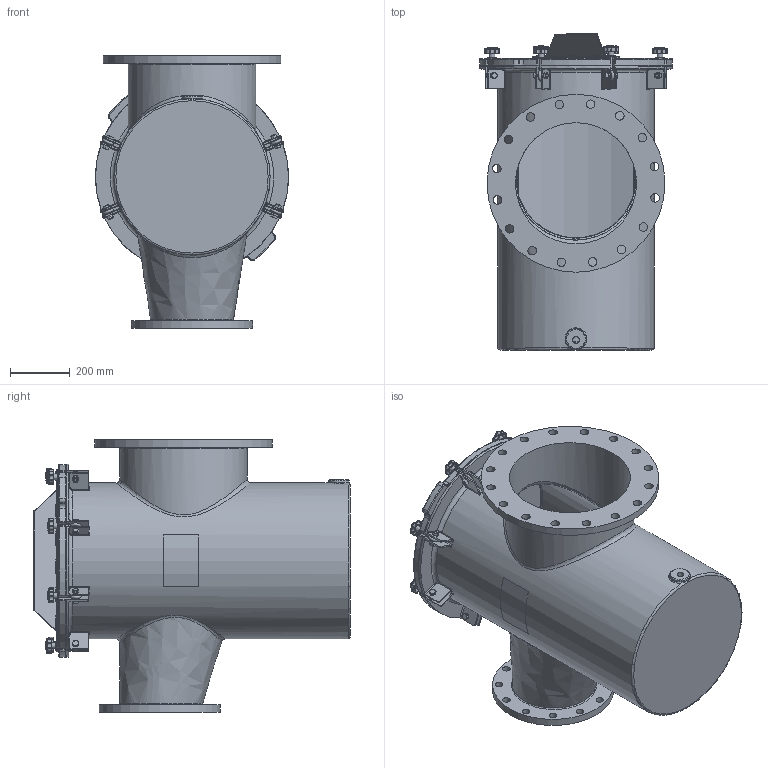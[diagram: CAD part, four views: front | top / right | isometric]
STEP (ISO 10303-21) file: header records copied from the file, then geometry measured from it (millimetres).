
FILE_DESCRIPTION(/* description */ ('STRAINER BODY'),/* implementation_level */ '2;1');
FILE_NAME(/* name */ 'Z:\Output\Strainers\11-14-2016\CAD\150NBFG60ER1.stp',/* time_stamp */ '2016-11-16T20:16:48+06:00',/* author */ ('20093558'),/* organization */ (''),/* preprocessor_version */ 'ST-DEVELOPER v16.1',/* originating_system */ 'Autodesk Inventor 2016',/* authorisation */ '');
FILE_SCHEMA (('AUTOMOTIVE_DESIGN { 1 0 10303 214 3 1 1 }'));
Length unit declared in the file: inch
Products named in the file (24): NBFG61EBODYR1; 150NBCVR22R2; 150NBGSK20R1; Perforated Basket 20in; Bride (Ring) 20in; Baffle 20in; Handle 20in; Bottom Strainer 20in; NBBSK16T316; BRACESTRCVR20_Welds; BRACE (BASE) FOR 20 BODY; BRACE (PROJ) FOR 20 BODY; Bumper; BRACESTRCVR20; Nut- 1_2  UNC; Bolt-1_2 x 1 1_2  UNC; EyeBolt; Washer; Knob M10; Securing Assembly For FG  with Brace; Securing Assembly For FG without Brace; Label for 20.625 inch (Right); Label for 20.625 inch (Left); Guardian FG Reducing H&L Strainer (Inch)
Assembly tree (39 placements, depth 3):
  Guardian FG Reducing H&L Strainer (Inch)
    NBFG61EBODYR1
    150NBCVR22R2
    150NBGSK20R1
    NBBSK16T316
      Perforated Basket 20in
      Bride (Ring) 20in
      Baffle 20in
      Handle 20in
      Bottom Strainer 20in
    BRACESTRCVR20
      BRACESTRCVR20_Welds
      BRACE (BASE) FOR 20 BODY
      BRACE (PROJ) FOR 20 BODY
      Bumper  x6
    Securing Assembly For FG  with Brace  x2
      Nut- 1_2  UNC
      Bolt-1_2 x 1 1_2  UNC
      EyeBolt
      Washer
      Knob M10
    Securing Assembly For FG without Brace  x6
      Nut- 1_2  UNC
      Bolt-1_2 x 1 1_2  UNC
      EyeBolt
      Washer
      Knob M10
    Label for 20.625 inch (Right)
    Label for 20.625 inch (Left)
Bounding box: 647.7 x 1060.45 x 914.4 mm (x, y, z)
Volume: 35156799.5 mm3; surface area: 8570123.9 mm2
Topology: 68 solids, 68 shells, 1851 faces, 4251 edges, 2522 vertices
Faces by surface type: cylinder 686, plane 515, cone 184, torus 170, sphere 158, bspline 138
Full cylindrical faces by diameter (mm): 3.175 x11, 6.35 x2, 8.382 x8, 9.525 x16, 10.592 x8, 12.7 x8, 15.875 x16, 19 x16, 19.05 x8, 22.809 x1, 25.4 x12, 28.575 x16, 31.75 x8, 68.263 x1, 403.225 x2, 406.4 x3, 408.94 x1, 428.625 x1, 508 x2, 511.175 x1, 514.35 x1, 523.875 x1, 577.85 x1, 584.2 x1, 596.9 x1
Entity records: 36203 total; most frequent: CARTESIAN_POINT 12234, DIRECTION 4915, ORIENTED_EDGE 4558, EDGE_CURVE 2279, AXIS2_PLACEMENT_3D 2000, VERTEX_POINT 1438, EDGE_LOOP 1235, ADVANCED_FACE 1001
